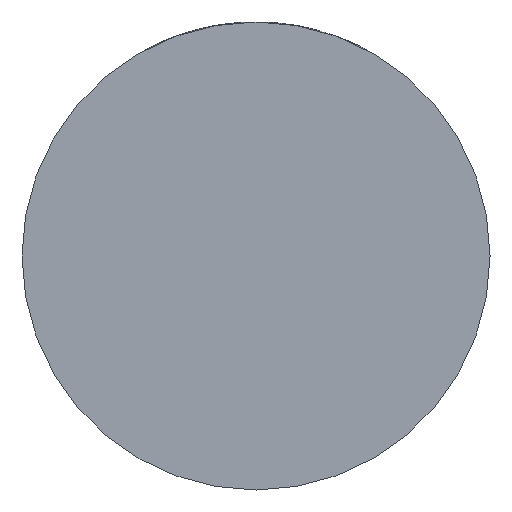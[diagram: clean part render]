
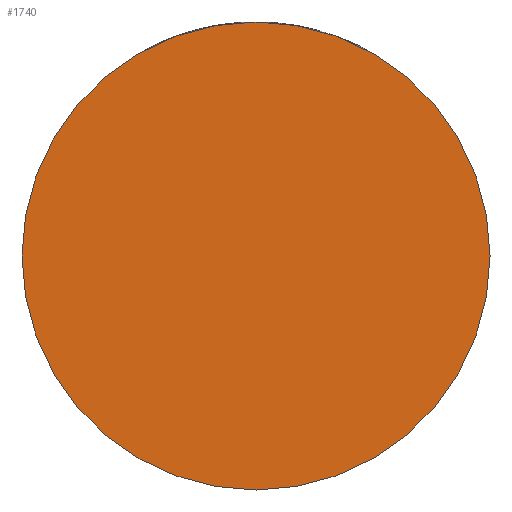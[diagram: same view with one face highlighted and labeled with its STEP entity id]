
A CAD part, front view. The second image highlights one B-rep face of the part: STEP entity #1740.
In plain terms, the highlighted planar face has unit normal (0, -1, 0).
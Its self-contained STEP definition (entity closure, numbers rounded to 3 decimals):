
#565 = DIRECTION ( 'NONE',  ( 0., -1., 0. ) ) ;
#672 = CIRCLE ( 'NONE', #3267, 39. ) ;
#691 = CARTESIAN_POINT ( 'NONE',  ( 39., -39., 0. ) ) ;
#728 = ORIENTED_EDGE ( 'NONE', *, *, #3609, .T. ) ;
#889 = CIRCLE ( 'NONE', #2445, 39. ) ;
#1042 = VERTEX_POINT ( 'NONE', #691 ) ;
#1047 = EDGE_LOOP ( 'NONE', ( #2045, #728 ) ) ;
#1231 = VERTEX_POINT ( 'NONE', #3324 ) ;
#1490 = DIRECTION ( 'NONE',  ( 0., -1., 0. ) ) ;
#1577 = AXIS2_PLACEMENT_3D ( 'NONE', #1833, #1791, #3618 ) ;
#1740 = ADVANCED_FACE ( 'NONE', ( #2457 ), #2873, .T. ) ;
#1791 = DIRECTION ( 'NONE',  ( 0., -1., 0. ) ) ;
#1833 = CARTESIAN_POINT ( 'NONE',  ( 0., -39., 0. ) ) ;
#2045 = ORIENTED_EDGE ( 'NONE', *, *, #2950, .T. ) ;
#2184 = DIRECTION ( 'NONE',  ( 1., 0., 0. ) ) ;
#2445 = AXIS2_PLACEMENT_3D ( 'NONE', #3929, #1490, #2184 ) ;
#2457 = FACE_OUTER_BOUND ( 'NONE', #1047, .T. ) ;
#2873 = PLANE ( 'NONE',  #1577 ) ;
#2950 = EDGE_CURVE ( 'NONE', #1231, #1042, #889, .T. ) ;
#3267 = AXIS2_PLACEMENT_3D ( 'NONE', #4018, #565, #4463 ) ;
#3324 = CARTESIAN_POINT ( 'NONE',  ( -39., -39., 0. ) ) ;
#3609 = EDGE_CURVE ( 'NONE', #1042, #1231, #672, .T. ) ;
#3618 = DIRECTION ( 'NONE',  ( 1., 0., 0. ) ) ;
#3929 = CARTESIAN_POINT ( 'NONE',  ( 0., -39., 0. ) ) ;
#4018 = CARTESIAN_POINT ( 'NONE',  ( 0., -39., 0. ) ) ;
#4463 = DIRECTION ( 'NONE',  ( 1., 0., 0. ) ) ;
